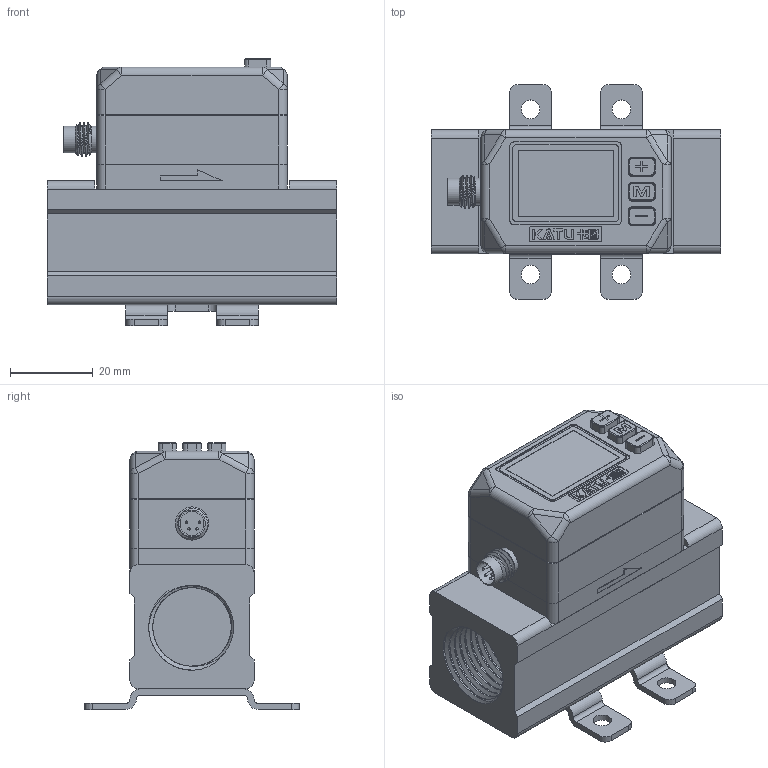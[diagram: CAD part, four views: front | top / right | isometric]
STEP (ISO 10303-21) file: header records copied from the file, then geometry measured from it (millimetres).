
FILE_DESCRIPTION( (''), '2;1');
FILE_NAME( 'QGKN_R1-2.step', '2025-06-24T11:14:32+08:00', (''), (''), '', '', '');
FILE_SCHEMA (('AUTOMOTIVE_DESIGN { 1 0 10303 214 3 1 1 1 }'));
Length unit declared in the file: millimetre
Products named in the file (1): QGKN R1-2
Bounding box: 70 x 52 x 64.6 mm (x, y, z)
Volume: 36559.2 mm3; surface area: 33511.5 mm2
Topology: 4 solids, 25 shells, 917 faces, 2334 edges, 1533 vertices
Faces by surface type: plane 490, cylinder 210, extrusion 170, sphere 16, torus 16, cone 9, bspline 6
Full cylindrical faces by diameter (mm): 0.6 x4, 1.2 x3, 1.5 x8, 2 x6, 2.05 x4, 2.5 x4, 3 x8, 3.5 x4, 4.5 x4, 5 x4, 5.8 x1, 6.5 x2, 19 x13, 20 x2
Entity records: 35809 total; most frequent: CARTESIAN_POINT 11638, ORIENTED_EDGE 4354, DIRECTION 3859, EDGE_CURVE 2177, VECTOR 1557, VERTEX_POINT 1461, LINE 1387, AXIS2_PLACEMENT_3D 1151
